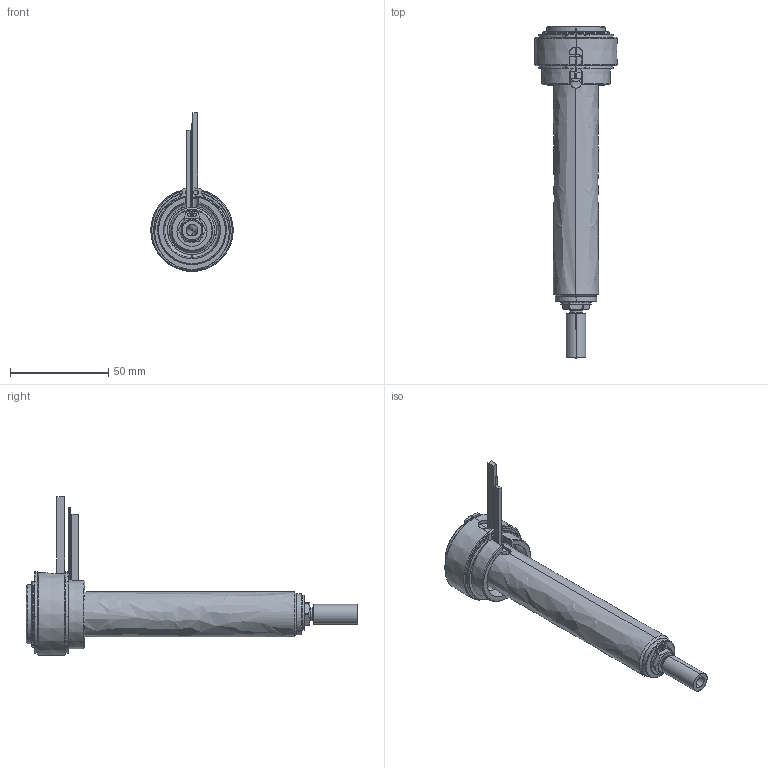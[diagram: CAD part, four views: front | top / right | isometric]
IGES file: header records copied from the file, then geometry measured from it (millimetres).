
Start section: SolidWorks IGES file using analytic representation for surfaces
Global section: file name: C:\Users\luca.EMPAD\Desktop\TEM\UGBE3503-M-A-P-5 [Ød-1.0 P-20 ØC-7.0].IGS; native system: SolidWorks 2012; preprocessor: SolidWorks 2012; author: luca; date: 120330.140511; units: millimetre
Bounding box: 42 x 169 x 80.9 mm (x, y, z)
Surface area: 37704.6 mm2 (no closed solid volume)
Topology: 0 solids, 0 shells, 180 faces, 3302 edges, 3302 vertices
Faces by surface type: revolution 113, bspline 67
